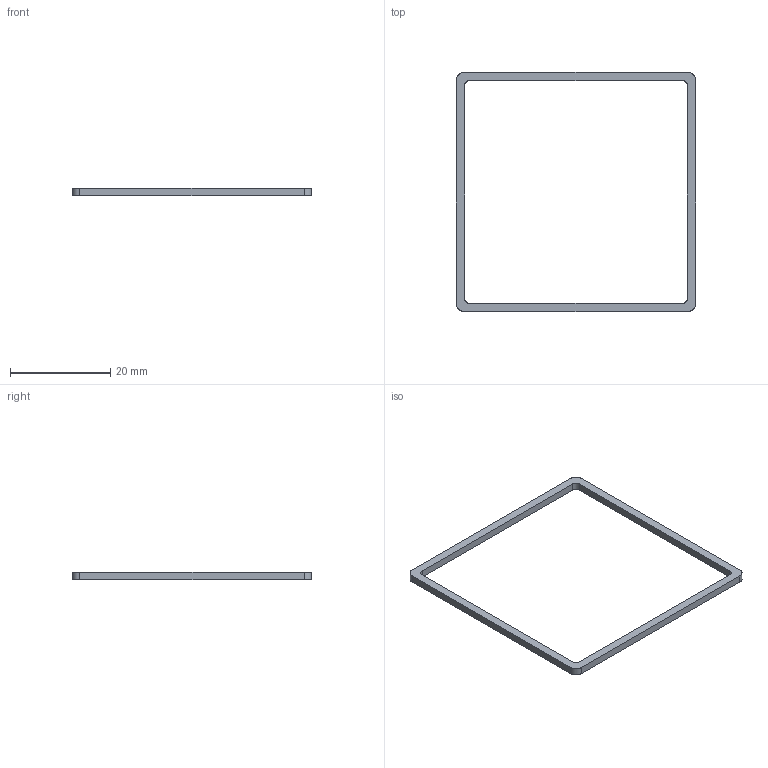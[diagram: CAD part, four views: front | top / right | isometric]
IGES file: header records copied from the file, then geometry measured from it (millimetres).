
Start section: SolidWorks IGES file using analytic representation for surfaces
Bounding box: 47.8 x 47.8 x 1.5 mm (x, y, z)
Surface area: 1154.4 mm2 (no closed solid volume)
Topology: 0 solids, 0 shells, 18 faces, 208 edges, 208 vertices
Faces by surface type: bspline 10, revolution 8
